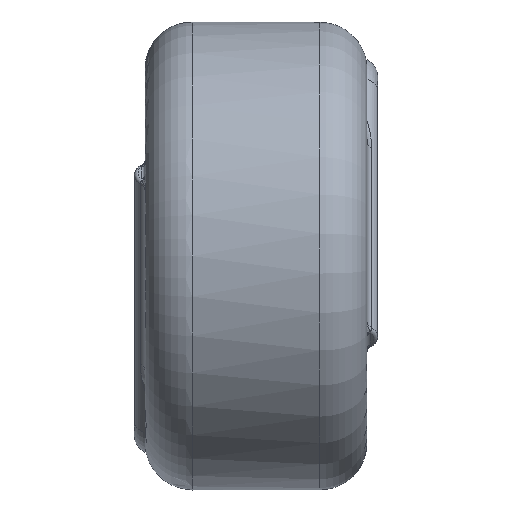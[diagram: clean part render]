
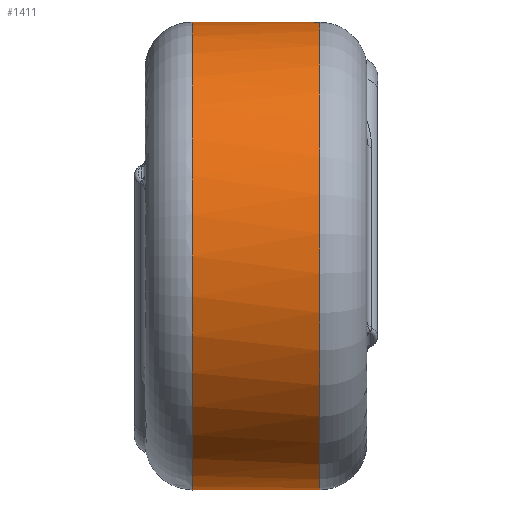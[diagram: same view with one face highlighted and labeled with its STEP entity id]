
A CAD part, left-side view. The second image highlights one B-rep face of the part: STEP entity #1411.
In plain terms, the highlighted cylindrical face has radius 12.45 mm (diameter 24.9 mm), a full revolution.
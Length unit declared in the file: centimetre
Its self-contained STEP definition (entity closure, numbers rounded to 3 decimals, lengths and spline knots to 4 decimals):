
#972=CARTESIAN_POINT('',(1.245,0.85,0.));
#973=VERTEX_POINT('',#972);
#974=CARTESIAN_POINT('',(0.0,0.85,0.0));
#975=DIRECTION('',(0.0,1.0,0.0));
#976=DIRECTION('',(-1.0,0.0,0.0));
#977=AXIS2_PLACEMENT_3D('',#974,#975,#976);
#978=CIRCLE('',#977,1.245);
#979=EDGE_CURVE('',#973,#973,#978,.T.);
#1302=CARTESIAN_POINT('',(1.245,0.169,0.));
#1303=VERTEX_POINT('',#1302);
#1304=CARTESIAN_POINT('',(0.0,0.169,0.0));
#1305=DIRECTION('',(0.0,-1.0,0.0));
#1306=DIRECTION('',(-1.0,0.0,0.0));
#1307=AXIS2_PLACEMENT_3D('',#1304,#1305,#1306);
#1308=CIRCLE('',#1307,1.245);
#1309=EDGE_CURVE('',#1303,#1303,#1308,.T.);
#1400=CARTESIAN_POINT('',(0.0,0.5095,0.0));
#1401=DIRECTION('',(0.0,1.0,0.0));
#1402=DIRECTION('',(-1.0,0.0,0.0));
#1403=AXIS2_PLACEMENT_3D('',#1400,#1401,#1402);
#1404=CYLINDRICAL_SURFACE('',#1403,1.245);
#1405=ORIENTED_EDGE('',*,*,#979,.F.);
#1406=EDGE_LOOP('',(#1405));
#1407=FACE_OUTER_BOUND('',#1406,.T.);
#1408=ORIENTED_EDGE('',*,*,#1309,.F.);
#1409=EDGE_LOOP('',(#1408));
#1410=FACE_BOUND('',#1409,.T.);
#1411=ADVANCED_FACE('',(#1407,#1410),#1404,.T.);
